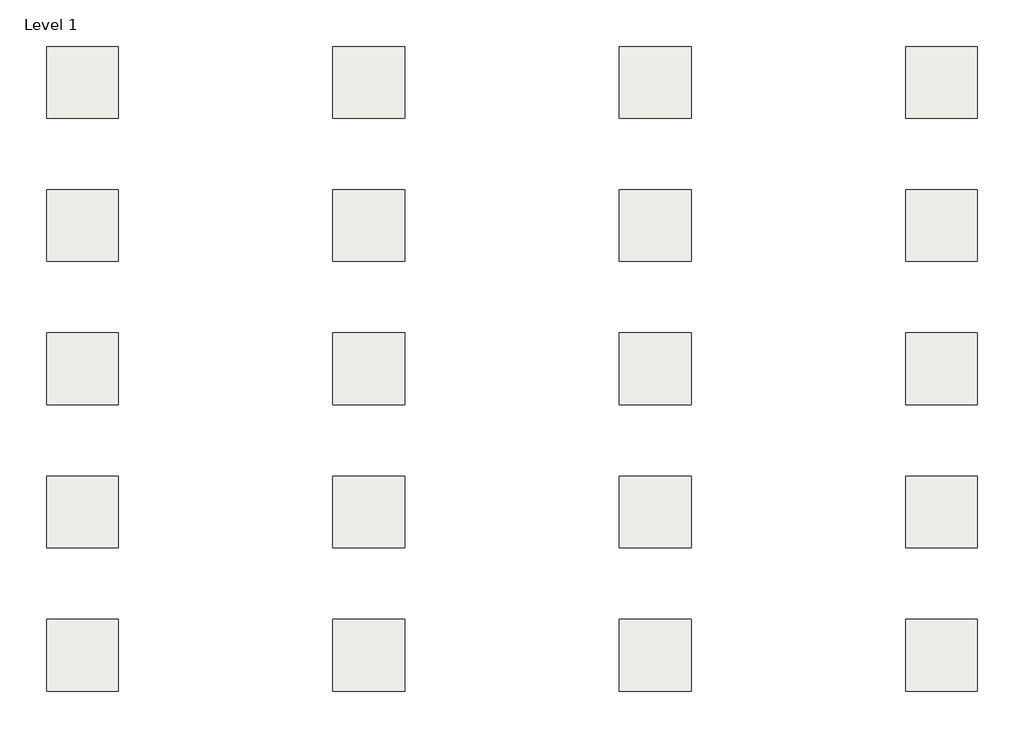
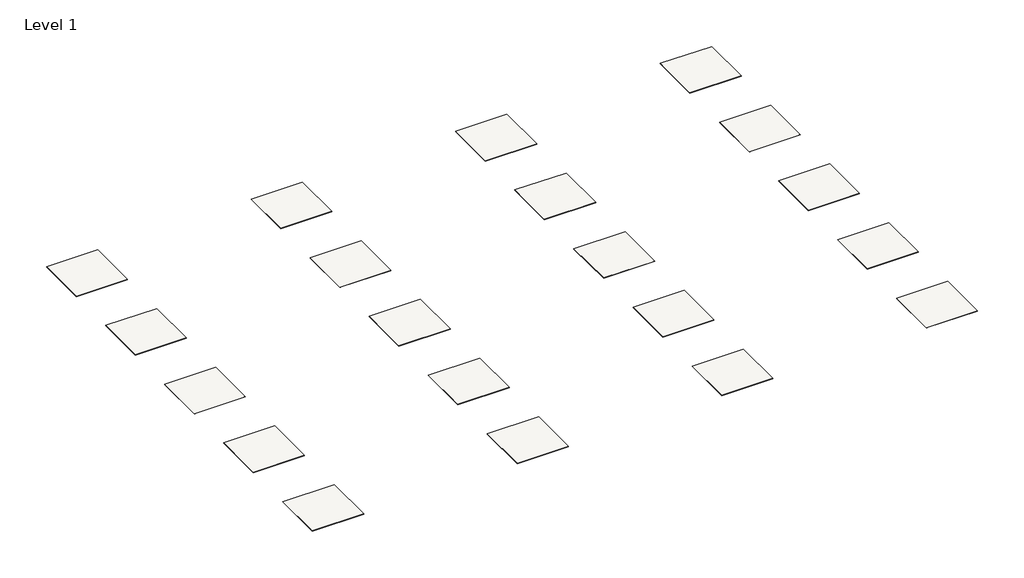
# One storey: 20 coverings.
"""IFC4 building model written with IfcOpenShell, lengths in millimetres."""

from ifc_helpers import new_model, si_unit, frame, origin, place, context, project, spatial, polyline, outline, extrude, element, save

model = new_model("IFC4")

# Units and contexts
model_context = context("Model", 3, world=origin())
ifc_project = project(units=[si_unit("LENGTHUNIT", "METRE", prefix="MILLI")], contexts=[model_context])

# Site, building, storey
site = spatial("IfcSite", under=ifc_project)
building = spatial("IfcBuilding", under=site)
storey = spatial("IfcBuildingStorey", under=building, Name="Level 1", Elevation=0.0)

# Coverings
placement = place(None, origin())
element("IfcCovering", 1, ObjectType="REVIGRES-ELEMENTS-DG-29.5x59.2-SOFT-MIST", at=placement, inside=storey, context=model_context, shape_type="SweptSolid", body=[
    extrude(outline(polyline([(12778.642714, -1191.9242026), (12778.642714, -2191.9242026), (11778.642714, -2191.9242026), (11778.642714, -1191.9242026), (12778.642714, -1191.9242026)])), frame((0.0, 0.0, -8.5), z_axis=(0.0, 0.0, 1.0), x_axis=(1.0, 0.0, 0.0)), (0.0, 0.0, 1.0), 8.5),
])
element("IfcCovering", 2, ObjectType="REVIGRES-ELEMENTS-DG-29.5x59.2-SOFT-SMOKE", at=placement, inside=storey, context=model_context, shape_type="SweptSolid", body=[
    extrude(outline(polyline([(16778.642714, -1191.9242026), (16778.642714, -2191.9242026), (15778.642714, -2191.9242026), (15778.642714, -1191.9242026), (16778.642714, -1191.9242026)])), frame((0.0, 0.0, -8.5), z_axis=(0.0, 0.0, 1.0), x_axis=(1.0, 0.0, 0.0)), (0.0, 0.0, 1.0), 8.5),
])
element("IfcCovering", 3, ObjectType="REVIGRES-ELEMENTS-DG-59.2x59.2-SOFT-MIST", at=placement, inside=storey, context=model_context, shape_type="SweptSolid", body=[
    extrude(outline(polyline([(12778.642714, -5191.9242026), (12778.642714, -6191.9242026), (11778.642714, -6191.9242026), (11778.642714, -5191.9242026), (12778.642714, -5191.9242026)])), frame((0.0, 0.0, -8.5), z_axis=(0.0, 0.0, 1.0), x_axis=(1.0, 0.0, 0.0)), (0.0, 0.0, 1.0), 8.5),
])
element("IfcCovering", 4, ObjectType="REVIGRES-ELEMENTS-DG-59.2x59.2-SOFT-SMOKE", at=placement, inside=storey, context=model_context, shape_type="SweptSolid", body=[
    extrude(outline(polyline([(16778.642714, -5191.9242026), (16778.642714, -6191.9242026), (15778.642714, -6191.9242026), (15778.642714, -5191.9242026), (16778.642714, -5191.9242026)])), frame((0.0, 0.0, -8.5), z_axis=(0.0, 0.0, 1.0), x_axis=(1.0, 0.0, 0.0)), (0.0, 0.0, 1.0), 8.5),
])
element("IfcCovering", 5, ObjectType="REVIGRES-ELEMENTS-DG-59.2x118.6-SOFT-MIST", at=placement, inside=storey, context=model_context, shape_type="SweptSolid", body=[
    extrude(outline(polyline([(12778.642714, -9191.9242026), (12778.642714, -10191.9242026), (11778.642714, -10191.9242026), (11778.642714, -9191.9242026), (12778.642714, -9191.9242026)])), frame((0.0, 0.0, -8.5), z_axis=(0.0, 0.0, 1.0), x_axis=(1.0, 0.0, 0.0)), (0.0, 0.0, 1.0), 8.5),
])
element("IfcCovering", 6, ObjectType="REVIGRES-ELEMENTS-DG-59.2x118.6-SOFT-SMOKE", at=placement, inside=storey, context=model_context, shape_type="SweptSolid", body=[
    extrude(outline(polyline([(16778.642714, -9191.9242026), (16778.642714, -10191.9242026), (15778.642714, -10191.9242026), (15778.642714, -9191.9242026), (16778.642714, -9191.9242026)])), frame((0.0, 0.0, -8.5), z_axis=(0.0, 0.0, 1.0), x_axis=(1.0, 0.0, 0.0)), (0.0, 0.0, 1.0), 8.5),
])
element("IfcCovering", 7, ObjectType="REVIGRES-ELEMENTS-DG-44.35x88.9-SOFT-MIST", at=placement, inside=storey, context=model_context, shape_type="SweptSolid", body=[
    extrude(outline(polyline([(12778.642714, -3191.9242026), (12778.642714, -4191.9242026), (11778.642714, -4191.9242026), (11778.642714, -3191.9242026), (12778.642714, -3191.9242026)])), frame((0.0, 0.0, -8.5), z_axis=(0.0, 0.0, 1.0), x_axis=(1.0, 0.0, 0.0)), (0.0, 0.0, 1.0), 8.5),
])
element("IfcCovering", 8, ObjectType="REVIGRES-ELEMENTS-DG-44.35x88.9-SOFT-SMOKE", at=placement, inside=storey, context=model_context, shape_type="SweptSolid", body=[
    extrude(outline(polyline([(16778.642714, -3191.9242026), (16778.642714, -4191.9242026), (15778.642714, -4191.9242026), (15778.642714, -3191.9242026), (16778.642714, -3191.9242026)])), frame((0.0, 0.0, -8.5), z_axis=(0.0, 0.0, 1.0), x_axis=(1.0, 0.0, 0.0)), (0.0, 0.0, 1.0), 8.5),
])
element("IfcCovering", 9, ObjectType="REVIGRES-ELEMENTS-DG-29.5x59.2-SOFT-FOG", at=placement, inside=storey, context=model_context, shape_type="SweptSolid", body=[
    extrude(outline(polyline([(7778.642714, -1191.9242026), (8778.642714, -1191.9242026), (8778.642714, -2191.9242026), (7778.642714, -2191.9242026), (7778.642714, -1191.9242026)])), frame((0.0, 0.0, -8.5), z_axis=(0.0, 0.0, 1.0), x_axis=(1.0, 0.0, 0.0)), (0.0, 0.0, 1.0), 8.5),
])
element("IfcCovering", 10, ObjectType="REVIGRES-ELEMENTS-DG-29.5x59.2-SOFT-CARBON", at=placement, inside=storey, context=model_context, shape_type="SweptSolid", body=[
    extrude(outline(polyline([(3778.642714, -1191.9242026), (4778.642714, -1191.9242026), (4778.642714, -2191.9242026), (3778.642714, -2191.9242026), (3778.642714, -1191.9242026)])), frame((0.0, 0.0, -8.5), z_axis=(0.0, 0.0, 1.0), x_axis=(1.0, 0.0, 0.0)), (0.0, 0.0, 1.0), 8.5),
])
element("IfcCovering", 11, ObjectType="REVIGRES-ELEMENTS-DG-59.2x59.2-SOFT-FOG", at=placement, inside=storey, context=model_context, shape_type="SweptSolid", body=[
    extrude(outline(polyline([(7778.642714, -5191.9242026), (8778.642714, -5191.9242026), (8778.642714, -6191.9242026), (7778.642714, -6191.9242026), (7778.642714, -5191.9242026)])), frame((0.0, 0.0, -8.5), z_axis=(0.0, 0.0, 1.0), x_axis=(1.0, 0.0, 0.0)), (0.0, 0.0, 1.0), 8.5),
])
element("IfcCovering", 12, ObjectType="REVIGRES-ELEMENTS-DG-59.2x59.2-SOFT-CARBON", at=placement, inside=storey, context=model_context, shape_type="SweptSolid", body=[
    extrude(outline(polyline([(3778.642714, -5191.9242026), (4778.642714, -5191.9242026), (4778.642714, -6191.9242026), (3778.642714, -6191.9242026), (3778.642714, -5191.9242026)])), frame((0.0, 0.0, -8.5), z_axis=(0.0, 0.0, 1.0), x_axis=(1.0, 0.0, 0.0)), (0.0, 0.0, 1.0), 8.5),
])
element("IfcCovering", 13, ObjectType="REVIGRES-ELEMENTS-DG-59.2x118.6-SOFT-FOG", at=placement, inside=storey, context=model_context, shape_type="SweptSolid", body=[
    extrude(outline(polyline([(7778.642714, -9191.9242026), (8778.642714, -9191.9242026), (8778.642714, -10191.9242026), (7778.642714, -10191.9242026), (7778.642714, -9191.9242026)])), frame((0.0, 0.0, -8.5), z_axis=(0.0, 0.0, 1.0), x_axis=(1.0, 0.0, 0.0)), (0.0, 0.0, 1.0), 8.5),
])
element("IfcCovering", 14, ObjectType="REVIGRES-ELEMENTS-DG-59.2x118.6-SOFT-CARBON", at=placement, inside=storey, context=model_context, shape_type="SweptSolid", body=[
    extrude(outline(polyline([(3778.642714, -9191.9242026), (4778.642714, -9191.9242026), (4778.642714, -10191.9242026), (3778.642714, -10191.9242026), (3778.642714, -9191.9242026)])), frame((0.0, 0.0, -8.5), z_axis=(0.0, 0.0, 1.0), x_axis=(1.0, 0.0, 0.0)), (0.0, 0.0, 1.0), 8.5),
])
element("IfcCovering", 15, ObjectType="REVIGRES-ELEMENTS-DG-44.35x88.9-SOFT-FOG", at=placement, inside=storey, context=model_context, shape_type="SweptSolid", body=[
    extrude(outline(polyline([(7778.642714, -3191.9242026), (8778.642714, -3191.9242026), (8778.642714, -4191.9242026), (7778.642714, -4191.9242026), (7778.642714, -3191.9242026)])), frame((0.0, 0.0, -8.5), z_axis=(0.0, 0.0, 1.0), x_axis=(1.0, 0.0, 0.0)), (0.0, 0.0, 1.0), 8.5),
])
element("IfcCovering", 16, ObjectType="REVIGRES-ELEMENTS-DG-44.35x88.9-SOFT-CARBON", at=placement, inside=storey, context=model_context, shape_type="SweptSolid", body=[
    extrude(outline(polyline([(3778.642714, -3191.9242026), (4778.642714, -3191.9242026), (4778.642714, -4191.9242026), (3778.642714, -4191.9242026), (3778.642714, -3191.9242026)])), frame((0.0, 0.0, -8.5), z_axis=(0.0, 0.0, 1.0), x_axis=(1.0, 0.0, 0.0)), (0.0, 0.0, 1.0), 8.5),
])
element("IfcCovering", 17, ObjectType="REVIGRES-ELEMENTS-DG-29.5x118.6-SOFT-MIST", at=placement, inside=storey, context=model_context, shape_type="SweptSolid", body=[
    extrude(outline(polyline([(12778.642714, -7191.9242026), (12778.642714, -8191.9242026), (11778.642714, -8191.9242026), (11778.642714, -7191.9242026), (12778.642714, -7191.9242026)])), frame((0.0, 0.0, -8.5), z_axis=(0.0, 0.0, 1.0), x_axis=(1.0, 0.0, 0.0)), (0.0, 0.0, 1.0), 8.5),
])
element("IfcCovering", 18, ObjectType="REVIGRES-ELEMENTS-DG-29.5x118.6-SOFT-SMOKE", at=placement, inside=storey, context=model_context, shape_type="SweptSolid", body=[
    extrude(outline(polyline([(16778.642714, -7191.9242026), (16778.642714, -8191.9242026), (15778.642714, -8191.9242026), (15778.642714, -7191.9242026), (16778.642714, -7191.9242026)])), frame((0.0, 0.0, -8.5), z_axis=(0.0, 0.0, 1.0), x_axis=(1.0, 0.0, 0.0)), (0.0, 0.0, 1.0), 8.5),
])
element("IfcCovering", 19, ObjectType="REVIGRES-ELEMENTS-DG-29.5x118.6-SOFT-FOG", at=placement, inside=storey, context=model_context, shape_type="SweptSolid", body=[
    extrude(outline(polyline([(7778.642714, -7191.9242026), (8778.642714, -7191.9242026), (8778.642714, -8191.9242026), (7778.642714, -8191.9242026), (7778.642714, -7191.9242026)])), frame((0.0, 0.0, -8.5), z_axis=(0.0, 0.0, 1.0), x_axis=(1.0, 0.0, 0.0)), (0.0, 0.0, 1.0), 8.5),
])
element("IfcCovering", 20, ObjectType="REVIGRES-ELEMENTS-DG-29.5x118.6-SOFT-CARBON", at=placement, inside=storey, context=model_context, shape_type="SweptSolid", body=[
    extrude(outline(polyline([(3778.642714, -7191.9242026), (4778.642714, -7191.9242026), (4778.642714, -8191.9242026), (3778.642714, -8191.9242026), (3778.642714, -7191.9242026)])), frame((0.0, 0.0, -8.5), z_axis=(0.0, 0.0, 1.0), x_axis=(1.0, 0.0, 0.0)), (0.0, 0.0, 1.0), 8.5),
])

save(model, "model.ifc")
